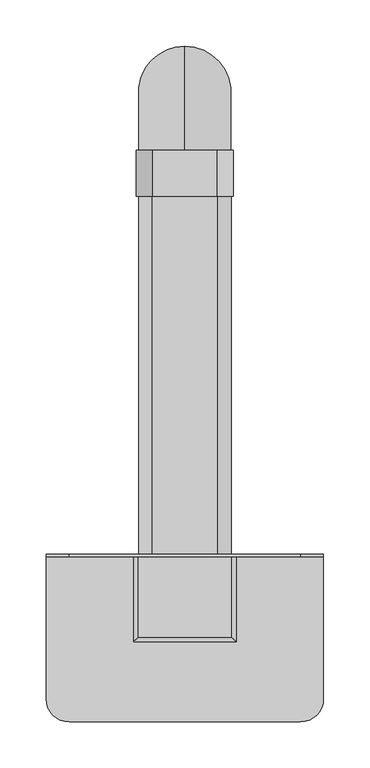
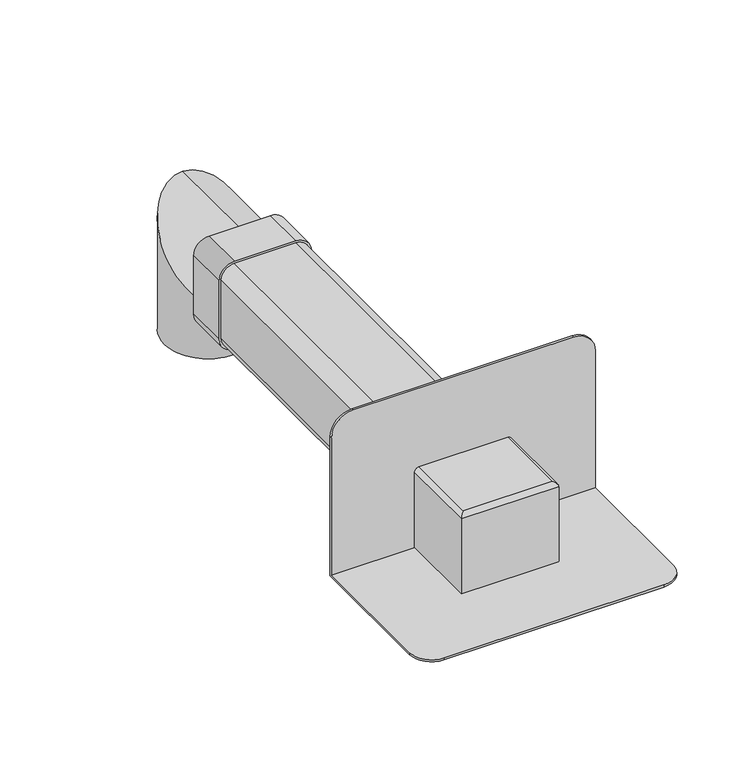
"""IFC4 building model written with IfcOpenShell, lengths in millimetres: flow terminal geometry, BIMLIB_Воронка_Парапетная_Fachmann_VC-PVC : 100х100х450."""

import ifcopenshell
import ifcopenshell.guid

model = None  # the IFC model being written
_history = None  # IfcOwnerHistory: only IFC2X3 demands one
_inside = {}  # id of a spatial element -> (the spatial element, [elements in it])
_under = {}  # id of a project, library or spatial element -> (it, [spatial elements below it])
_declared = {}  # id of a project -> (the project, [libraries it declares])
_typed = {}  # id of a type object -> (the type object, [elements of that type])
_made_of = {}  # id of a material, layer set ... -> (it, [elements and type objects made of it])


def new_model(schema):
    """Start an empty IFC model of exactly this schema.

    Asked for "IFC4X3", IfcOpenShell would pick the latest addendum, in which some entities
    have other attributes; the version numbers below select the first issue.
    IFC2X3 requires an IfcOwnerHistory on every rooted entity: one is made here for all.
    """
    global model, _history
    if schema == "IFC4X3":
        model = ifcopenshell.file(schema_version=(4, 3, 0, 0))
    else:
        model = ifcopenshell.file(schema=schema)
    _inside.clear()
    _under.clear()
    _declared.clear()
    _typed.clear()
    _made_of.clear()
    _history = None
    if model.schema == "IFC2X3":
        org = make("IfcOrganization", Name="unknown")
        user = make(
            "IfcPersonAndOrganization",
            ThePerson=make("IfcPerson", FamilyName="unknown"),
            TheOrganization=org,
        )
        app = make(
            "IfcApplication",
            ApplicationDeveloper=org,
            Version="unknown",
            ApplicationFullName="unknown",
            ApplicationIdentifier="unknown",
        )
        _history = make(
            "IfcOwnerHistory",
            OwningUser=user,
            OwningApplication=app,
            ChangeAction="ADDED",
            CreationDate=0,
        )
    return model


def make(cls, **values):
    """One entity of the class cls with the attributes given. An attribute that is None is left unset."""
    return model.create_entity(
        cls, **{name: value for name, value in values.items() if value is not None}
    )


def rooted(cls, **values):
    """An entity with a GlobalId (a new one), such as an element, a storey or a relation."""
    return make(cls, GlobalId=ifcopenshell.guid.new(), OwnerHistory=_history, **values)


def si_unit(unit_type, name, prefix=None):
    """IfcSIUnit, for example si_unit("LENGTHUNIT", "METRE", prefix="MILLI")."""
    return make("IfcSIUnit", UnitType=unit_type, Prefix=prefix, Name=name)


def assignment(units):
    """IfcUnitAssignment: the units of a project."""
    return None if units is None else make("IfcUnitAssignment", Units=units)


def point(xyz):
    """IfcCartesianPoint."""
    return None if xyz is None else make("IfcCartesianPoint", Coordinates=xyz)


def direction(xyz):
    """IfcDirection."""
    return None if xyz is None else make("IfcDirection", DirectionRatios=xyz)


def frame(location, z_axis=None, x_axis=None):
    """IfcAxis2Placement3D, a coordinate frame: its origin and axes. An axis left out is left unset."""
    return make(
        "IfcAxis2Placement3D",
        Location=point(location),
        Axis=direction(z_axis),
        RefDirection=direction(x_axis),
    )


def frame_2d(location, x_axis=None):
    """IfcAxis2Placement2D, a coordinate frame in the plane: its origin and x axis."""
    return make(
        "IfcAxis2Placement2D", Location=point(location), RefDirection=direction(x_axis)
    )


def origin():
    """The frame at (0, 0, 0) with its axes left unset."""
    return frame((0.0, 0.0, 0.0))


def place(relative_to, where):
    """IfcLocalPlacement: puts the frame where relative to a parent placement (None: the world)."""
    return make(
        "IfcLocalPlacement", PlacementRelTo=relative_to, RelativePlacement=where
    )


def context(
    kind, dimensions, precision=None, world=None, true_north=None, identifier=None
):
    """IfcGeometricRepresentationContext, for example the 3D "Model" context."""
    return make(
        "IfcGeometricRepresentationContext",
        ContextIdentifier=identifier,
        ContextType=kind,
        CoordinateSpaceDimension=dimensions,
        Precision=precision,
        WorldCoordinateSystem=world,
        TrueNorth=true_north,
    )


def project(units=None, contexts=None):
    """IfcProject with its units and contexts."""
    return rooted(
        "IfcProject",
        Name="project",
        RepresentationContexts=contexts,
        UnitsInContext=assignment(units),
    )


def spatial(cls, under=None, at=None, **own):
    """A site, building, storey or space (cls), placed at a placement, below another one or the project."""
    s = rooted(cls, ObjectPlacement=at, **own)
    if under is not None:
        _under.setdefault(under.id(), (under, []))[1].append(s)
    return s


def polyline(points):
    """IfcPolyline through the points."""
    return make("IfcPolyline", Points=[point(p) for p in points])


def circle_curve(where, radius):
    """IfcCircle in the frame where."""
    return make("IfcCircle", Position=where, Radius=radius)


def ellipse_curve(where, semi_axis1, semi_axis2):
    """IfcEllipse in the frame where."""
    return make(
        "IfcEllipse", Position=where, SemiAxis1=semi_axis1, SemiAxis2=semi_axis2
    )


def trimmed(basis, trim1, trim2, sense, master):
    """IfcTrimmedCurve: the piece of a basis curve between two trims."""
    return make(
        "IfcTrimmedCurve",
        BasisCurve=basis,
        Trim1=trim1,
        Trim2=trim2,
        SenseAgreement=sense,
        MasterRepresentation=master,
    )


def segment(curve, same_sense, transition):
    """IfcCompositeCurveSegment."""
    return make(
        "IfcCompositeCurveSegment",
        Transition=transition,
        SameSense=same_sense,
        ParentCurve=curve,
    )


def composite_curve(segments, self_intersect=None):
    """IfcCompositeCurve: segments joined end to end."""
    return make("IfcCompositeCurve", Segments=segments, SelfIntersect=self_intersect)


def outline(outer, holes=None, kind="AREA"):
    """IfcArbitraryClosedProfileDef: a profile drawn as a closed curve; with holes, ...WithVoids."""
    if holes is None:
        return make("IfcArbitraryClosedProfileDef", ProfileType=kind, OuterCurve=outer)
    return make(
        "IfcArbitraryProfileDefWithVoids",
        ProfileType=kind,
        OuterCurve=outer,
        InnerCurves=holes,
    )


def extrude(swept, where, along, depth):
    """IfcExtrudedAreaSolid: the profile swept, set in the frame where, extruded along a direction by depth."""
    return make(
        "IfcExtrudedAreaSolid",
        SweptArea=swept,
        Position=where,
        ExtrudedDirection=direction(along),
        Depth=depth,
    )


def shape(context_of_items, identifier, shape_type, items):
    """IfcShapeRepresentation: the items that make up one representation, for example the "Body"."""
    return make(
        "IfcShapeRepresentation",
        ContextOfItems=context_of_items,
        RepresentationIdentifier=identifier,
        RepresentationType=shape_type,
        Items=items,
    )


def source(mapping_origin, context_of_items, identifier, shape_type, items):
    """IfcRepresentationMap: a shape defined once, which mapped items show again and again."""
    return make(
        "IfcRepresentationMap",
        MappingOrigin=mapping_origin,
        MappedRepresentation=shape(context_of_items, identifier, shape_type, items),
    )


def transform(
    local_origin,
    x_axis=None,
    y_axis=None,
    z_axis=None,
    scale=None,
    scale2=None,
    scale3=None,
    uniform=True,
):
    """IfcCartesianTransformationOperator3D, or its non-uniform kind. x_axis, y_axis, z_axis: its Axis1, 2, 3."""
    if uniform:
        return make(
            "IfcCartesianTransformationOperator3D",
            Axis1=direction(x_axis),
            Axis2=direction(y_axis),
            LocalOrigin=point(local_origin),
            Scale=scale,
            Axis3=direction(z_axis),
        )
    return make(
        "IfcCartesianTransformationOperator3DnonUniform",
        Axis1=direction(x_axis),
        Axis2=direction(y_axis),
        LocalOrigin=point(local_origin),
        Scale=scale,
        Axis3=direction(z_axis),
        Scale2=scale2,
        Scale3=scale3,
    )


def mapped(mapping_source, mapping_target):
    """IfcMappedItem: shows the shape of a source again, moved by a transform."""
    return make(
        "IfcMappedItem", MappingSource=mapping_source, MappingTarget=mapping_target
    )


def made_of(thing, what):
    """Note that an element or type object is made of a material, layer set ...; save() writes the relation."""
    if what is not None:
        _made_of.setdefault(what.id(), (what, []))[1].append(thing)
    return thing


def element(
    cls,
    number,
    at=None,
    inside=None,
    cuts=None,
    type_object=None,
    material=None,
    context=None,
    identifier="Body",
    shape_type=None,
    held_by="IfcProductDefinitionShape",
    body=None,
    shapes=None,
    **own,
):
    """One element of the class cls, such as IfcWall. Its Tag is "e" and its number.

    at: its placement. inside: the storey or other place that contains it. cuts: it is an
    opening in that element (IfcRelVoidsElement). A single representation is given by context,
    identifier, shape_type and body (its items); several are given by shapes. held_by: the class
    of the entity that holds the representations. save() writes the other relations.
    """
    e = rooted(cls, Tag="e%d" % number, ObjectPlacement=at, **own)
    if body is not None:
        shapes = [shape(context, identifier, shape_type, body)]
    if shapes is not None:
        e.Representation = make(held_by, Representations=shapes)
    if inside is not None:
        _inside.setdefault(inside.id(), (inside, []))[1].append(e)
    if cuts is not None:
        rooted(
            "IfcRelVoidsElement", RelatingBuildingElement=cuts, RelatedOpeningElement=e
        )
    if type_object is not None:
        _typed.setdefault(type_object.id(), (type_object, []))[1].append(e)
    return made_of(e, material)


def aggregate(whole, parts):
    """IfcRelAggregates: a whole, such as a stair, and the parts it consists of."""
    return rooted("IfcRelAggregates", RelatingObject=whole, RelatedObjects=parts)


def save(model, path):
    """Write the relations noted so far, then the file.

    IfcRelAggregates (storeys below a building ...), IfcRelContainedInSpatialStructure (elements
    in a storey), IfcRelDefinesByType, IfcRelAssociatesMaterial and IfcRelDeclares: one each for
    every whole, place, type object, material and project.
    """
    for whole, parts in _under.values():
        aggregate(whole, parts)
    for where, things in _inside.values():
        rooted(
            "IfcRelContainedInSpatialStructure",
            RelatedElements=things,
            RelatingStructure=where,
        )
    for kind, things in _typed.values():
        rooted("IfcRelDefinesByType", RelatedObjects=things, RelatingType=kind)
    for what, things in _made_of.values():
        rooted("IfcRelAssociatesMaterial", RelatedObjects=things, RelatingMaterial=what)
    for by, libraries in _declared.values():
        rooted("IfcRelDeclares", RelatingContext=by, RelatedDefinitions=libraries)
    model.write(path)


def plane_surface(at):
    """IfcPlane: the flat surface through the origin of the frame at, square to its z axis."""
    return make("IfcPlane", Position=at)


def cylinder_surface(at, radius):
    """IfcCylindricalSurface: all points at the distance radius from the z axis of the frame at."""
    return make("IfcCylindricalSurface", Position=at, Radius=radius)


def revolved_surface(curve, axis_point, axis_direction):
    """IfcSurfaceOfRevolution: the curve turned about the line through axis_point along axis_direction."""
    return make(
        "IfcSurfaceOfRevolution",
        SweptCurve=make("IfcArbitraryOpenProfileDef", ProfileType="CURVE", Curve=curve),
        AxisPosition=make("IfcAxis1Placement", Location=point(axis_point), Axis=direction(axis_direction)),
    )


def advanced_brep(points, edges, surfaces, faces):
    """IfcAdvancedBrep: a solid bounded by faces that lie on surfaces and meet in shared edges.

    An edge is (start, end): straight between two places in points (the first is 0);
    or (start, end, curve); or (start, end, curve, False) where it runs against its curve.
    A face is (place in surfaces, loops), or (place, loops, False) where it looks against
    its surface's normal. A loop lists edges by number (the first is 1), with a minus sign
    where the edge is run from its end to its start. The first loop is the outer one.
    """
    corners = [point(p) for p in points]
    vertices = [make("IfcVertexPoint", VertexGeometry=c) for c in corners]
    made = []
    for start, end, *more in edges:
        made.append(
            make(
                "IfcEdgeCurve",
                EdgeStart=vertices[start],
                EdgeEnd=vertices[end],
                EdgeGeometry=more[0] if more else make("IfcPolyline", Points=[corners[start], corners[end]]),
                SameSense=more[1] if len(more) > 1 else True,
            )
        )
    hull = []
    for where, loops, *sense in faces:
        bounds = []
        for j, loop in enumerate(loops):
            ring = [make("IfcOrientedEdge", EdgeElement=made[abs(k) - 1], Orientation=k > 0) for k in loop]
            bounds.append(
                make(
                    "IfcFaceOuterBound" if j == 0 else "IfcFaceBound",
                    Bound=make("IfcEdgeLoop", EdgeList=ring),
                    Orientation=True,
                )
            )
        hull.append(make("IfcAdvancedFace", Bounds=bounds, FaceSurface=surfaces[where], SameSense=sense[0] if sense else True))
    return make("IfcAdvancedBrep", Outer=make("IfcClosedShell", CfsFaces=hull))


def flow_terminal_a2a1d550(model_context):
    return source(origin(), model_context, "Body", "SolidModel", [
        advanced_brep(
        [(50.4, -502.5, 97.5), (-50.4, -502.5, 97.5), (-50.4, -589.4, 97.5), (50.4, -589.4, 97.5), (55.4, -502.5, 2.5), (55.4, -594.4, 2.5), (-55.4, -594.4, 2.5), (-55.4, -502.5, 2.5), (-55.4, -502.5, 92.5), (55.4, -502.5, 92.5), (-55.4, -594.4, 92.5), (55.4, -594.4, 92.5)],
        [
            (0, 1),
            (1, 2),
            (2, 3),
            (3, 0),
            (4, 5),
            (5, 6),
            (6, 7),
            (7, 4),
            (7, 8),
            (8, 1, circle_curve(frame((-50.4, -502.5, 92.5), z_axis=(0.0, 1.0, 0.0), x_axis=(1.0, 0.0, 0.0)), 5.0)),
            (0, 9, circle_curve(frame((50.4, -502.5, 92.5), z_axis=(0.0, 1.0, 0.0), x_axis=(-1.0, 0.0, 0.0)), 5.0)),
            (9, 4),
            (6, 10),
            (10, 8),
            (5, 11),
            (11, 10),
            (9, 11),
            (10, 2, ellipse_curve(frame((-50.4, -589.4, 92.5), z_axis=(-0.7071067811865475, 0.7071067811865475, 0.0), x_axis=(-0.7071067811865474, -0.7071067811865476, 0.0)), 7.0710678, 5.0)),
            (11, 3, ellipse_curve(frame((50.4, -589.4, 92.5), z_axis=(-0.7071067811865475, -0.7071067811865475, 0.0), x_axis=(0.7071067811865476, -0.7071067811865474, 0.0)), 7.0710678, 5.0)),
        ],
        [
            plane_surface(frame((-55.4, -502.5, 97.5), z_axis=(0.0, 0.0, 1.0), x_axis=(-1.0, 0.0, 0.0))),
            plane_surface(frame((-55.4, -502.5, 2.5), z_axis=(0.0, 0.0, -1.0), x_axis=(1.0, 0.0, 0.0))),
            plane_surface(frame((55.4, -502.5, 97.5), z_axis=(0.0, 1.0, 0.0), x_axis=(0.0, 0.0, -1.0))),
            plane_surface(frame((-55.4, -502.5, 97.5), z_axis=(-1.0, 0.0, 0.0), x_axis=(0.0, 0.0, -1.0))),
            plane_surface(frame((-55.4, -594.4, 97.5), z_axis=(0.0, -1.0, 0.0), x_axis=(0.0, 0.0, -1.0))),
            plane_surface(frame((55.4, -594.4, 97.5), z_axis=(1.0, 0.0, 0.0), x_axis=(0.0, 0.0, -1.0))),
            cylinder_surface(frame((-50.4, -502.5, 92.5), z_axis=(0.0, -1.0, 0.0), x_axis=(1.0, 0.0, 0.0)), 5.0),
            cylinder_surface(frame((-55.4, -589.4, 92.5), z_axis=(1.0, 0.0, 0.0), x_axis=(0.0, 1.0, 0.0)), 5.0),
            cylinder_surface(frame((50.4, -594.4, 92.5), z_axis=(0.0, 1.0, 0.0), x_axis=(-1.0, 0.0, 0.0)), 5.0),
        ],
        [
            (0, [[1, 2, 3, 4]]),
            (1, [[5, 6, 7, 8]]),
            (2, [[-8, 9, 10, -1, 11, 12]]),
            (3, [[-7, 13, 14, -9]]),
            (4, [[-6, 15, 16, -13]]),
            (5, [[-5, -12, 17, -15]]),
            (6, [[18, -2, -10, -14]]),
            (7, [[-18, -16, 19, -3]]),
            (8, [[-19, -17, -11, -4]]),
        ],
    ),
        advanced_brep(
        [(35.0, -112.5, 102.5), (-35.0, -112.5, 102.5), (-52.5, -112.5, 85.0), (-52.5, -112.5, 15.0), (-35.0, -112.5, -2.5), (35.0, -112.5, -2.5), (52.5, -112.5, 15.0), (52.5, -112.5, 85.0), (-50.0, -112.5, 85.0), (-35.0, -112.5, 100.0), (35.0, -112.5, 100.0), (50.0, -112.5, 85.0), (50.0, -112.5, 15.0), (35.0, -112.5, 0.0), (-35.0, -112.5, 0.0), (-50.0, -112.5, 15.0), (35.0, -62.5, 102.5), (52.5, -62.5, 85.0), (52.5, -62.5, 15.0), (35.0, -62.5, -2.5), (-35.0, -62.5, -2.5), (-52.5, -62.5, 15.0), (-52.5, -62.5, 85.0), (-35.0, -62.5, 102.5), (-50.0, -62.5, 15.0), (-35.0, -62.5, 0.0), (0.0, -62.5, 0.0), (35.0, -62.5, 0.0), (50.0, -62.5, 15.0), (50.0, -62.5, 50.0), (50.0, -62.5, 85.0), (35.0, -62.5, 100.0), (0.0, -62.5, 100.0), (-35.0, -62.5, 100.0), (-50.0, -62.5, 85.0), (-50.0, -62.5, 50.0)],
        [
            (0, 1),
            (1, 2, circle_curve(frame((-35.0, -112.5, 85.0), z_axis=(0.0, -1.0, 0.0), x_axis=(0.0, 0.0, 1.0)), 17.5)),
            (2, 3),
            (3, 4, circle_curve(frame((-35.0, -112.5, 15.0), z_axis=(0.0, -1.0, 0.0), x_axis=(0.0, 0.0, 1.0)), 17.5)),
            (4, 5),
            (5, 6, circle_curve(frame((35.0, -112.5, 15.0), z_axis=(0.0, -1.0, 0.0), x_axis=(0.0, 0.0, 1.0)), 17.5)),
            (6, 7),
            (7, 0, circle_curve(frame((35.0, -112.5, 85.0), z_axis=(0.0, -1.0, 0.0), x_axis=(0.0, 0.0, 1.0)), 17.5)),
            (8, 9, circle_curve(frame((-35.0, -112.5, 85.0), z_axis=(0.0, 1.0, 0.0), x_axis=(0.0, 0.0, 1.0)), 15.0)),
            (9, 10),
            (10, 11, circle_curve(frame((35.0, -112.5, 85.0), z_axis=(0.0, 1.0, 0.0), x_axis=(0.0, 0.0, 1.0)), 15.0)),
            (11, 12),
            (12, 13, circle_curve(frame((35.0, -112.5, 15.0), z_axis=(0.0, 1.0, 0.0), x_axis=(0.0, 0.0, 1.0)), 15.0)),
            (13, 14),
            (14, 15, circle_curve(frame((-35.0, -112.5, 15.0), z_axis=(0.0, 1.0, 0.0), x_axis=(0.0, 0.0, 1.0)), 15.0)),
            (15, 8),
            (16, 17, circle_curve(frame((35.0, -62.5, 85.0), z_axis=(0.0, 1.0, 0.0), x_axis=(0.0, 0.0, 1.0)), 17.5)),
            (17, 18),
            (18, 19, circle_curve(frame((35.0, -62.5, 15.0), z_axis=(0.0, 1.0, 0.0), x_axis=(0.0, 0.0, 1.0)), 17.5)),
            (19, 20),
            (20, 21, circle_curve(frame((-35.0, -62.5, 15.0), z_axis=(0.0, 1.0, 0.0), x_axis=(0.0, 0.0, 1.0)), 17.5)),
            (21, 22),
            (22, 23, circle_curve(frame((-35.0, -62.5, 85.0), z_axis=(0.0, 1.0, 0.0), x_axis=(0.0, 0.0, 1.0)), 17.5)),
            (23, 16),
            (24, 25, circle_curve(frame((-35.0, -62.5, 15.0), z_axis=(0.0, -1.0, 0.0), x_axis=(0.0, 0.0, 1.0)), 15.0)),
            (25, 26),
            (26, 27),
            (27, 28, circle_curve(frame((35.0, -62.5, 15.0), z_axis=(0.0, -1.0, 0.0), x_axis=(0.0, 0.0, 1.0)), 15.0)),
            (28, 29),
            (29, 30),
            (30, 31, circle_curve(frame((35.0, -62.5, 85.0), z_axis=(0.0, -1.0, 0.0), x_axis=(0.0, 0.0, 1.0)), 15.0)),
            (31, 32),
            (32, 33),
            (33, 34, circle_curve(frame((-35.0, -62.5, 85.0), z_axis=(0.0, -1.0, 0.0), x_axis=(0.0, 0.0, 1.0)), 15.0)),
            (34, 35),
            (35, 24),
            (15, 24),
            (34, 8),
            (14, 25),
            (13, 27),
            (12, 28),
            (11, 30),
            (10, 31),
            (9, 33),
            (7, 17),
            (16, 0),
            (6, 18),
            (5, 19),
            (4, 20),
            (3, 21),
            (2, 22),
            (1, 23),
        ],
        [
            plane_surface(frame((-50.0, -112.5, 15.0), z_axis=(0.0, -1.0, 0.0), x_axis=(0.0, 0.0, 1.0))),
            plane_surface(frame((-50.0, -62.5, 15.0), z_axis=(0.0, 1.0, 0.0), x_axis=(0.0, 0.0, -1.0))),
            plane_surface(frame((-50.0, -62.5, 85.0), z_axis=(1.0, 0.0, 0.0), x_axis=(0.0, -1.0, 0.0))),
            revolved_surface(polyline([(-35.0, -112.5, 30.0), (-35.0, -62.5, 30.0)]), (-35.0, -112.5, 15.0), (0.0, -1.0, 0.0)),
            plane_surface(frame((-35.0, -62.5, 0.0), z_axis=(0.0, 0.0, 1.0), x_axis=(0.0, -1.0, 0.0))),
            revolved_surface(polyline([(35.0, -112.5, 30.0), (35.0, -62.5, 30.0)]), (35.0, -112.5, 15.0), (0.0, -1.0, 0.0)),
            plane_surface(frame((50.0, -62.5, 15.0), z_axis=(-1.0, 0.0, 0.0), x_axis=(0.0, -1.0, 0.0))),
            revolved_surface(polyline([(35.0, -112.5, 100.0), (35.0, -62.5, 100.0)]), (35.0, -112.5, 85.0), (0.0, -1.0, 0.0)),
            plane_surface(frame((35.0, -62.5, 100.0), z_axis=(0.0, 0.0, -1.0), x_axis=(0.0, -1.0, 0.0))),
            revolved_surface(polyline([(-35.0, -112.5, 100.0), (-35.0, -62.5, 100.0)]), (-35.0, -112.5, 85.0), (0.0, -1.0, 0.0)),
            cylinder_surface(frame((35.0, -62.5, 85.0), z_axis=(0.0, 1.0, 0.0), x_axis=(0.0, 0.0, 1.0)), 17.5),
            plane_surface(frame((52.5, -62.5, 85.0), z_axis=(1.0, 0.0, 0.0), x_axis=(0.0, -1.0, 0.0))),
            cylinder_surface(frame((35.0, -62.5, 15.0), z_axis=(0.0, 1.0, 0.0), x_axis=(0.0, 0.0, 1.0)), 17.5),
            plane_surface(frame((35.0, -62.5, -2.5), z_axis=(0.0, 0.0, -1.0), x_axis=(0.0, -1.0, 0.0))),
            cylinder_surface(frame((-35.0, -62.5, 15.0), z_axis=(0.0, 1.0, 0.0), x_axis=(0.0, 0.0, 1.0)), 17.5),
            plane_surface(frame((-52.5, -62.5, 15.0), z_axis=(-1.0, 0.0, 0.0), x_axis=(0.0, -1.0, 0.0))),
            cylinder_surface(frame((-35.0, -62.5, 85.0), z_axis=(0.0, 1.0, 0.0), x_axis=(0.0, 0.0, 1.0)), 17.5),
            plane_surface(frame((-35.0, -62.5, 102.5), z_axis=(0.0, 0.0, 1.0), x_axis=(0.0, -1.0, 0.0))),
        ],
        [
            (0, [[1, 2, 3, 4, 5, 6, 7, 8], [9, 10, 11, 12, 13, 14, 15, 16]]),
            (1, [[17, 18, 19, 20, 21, 22, 23, 24], [25, 26, 27, 28, 29, 30, 31, 32, 33, 34, 35, 36]]),
            (2, [[-16, 37, -36, -35, 38]]),
            (3, [[-15, 39, -25, -37]]),
            (4, [[-14, 40, -27, -26, -39]]),
            (5, [[-13, 41, -28, -40]]),
            (6, [[-12, 42, -30, -29, -41]]),
            (7, [[-11, 43, -31, -42]]),
            (8, [[-10, 44, -33, -32, -43]]),
            (9, [[-9, -38, -34, -44]]),
            (10, [[-8, 45, -17, 46]]),
            (11, [[-7, 47, -18, -45]]),
            (12, [[-6, 48, -19, -47]]),
            (13, [[-5, 49, -20, -48]]),
            (14, [[-4, 50, -21, -49]]),
            (15, [[-3, 51, -22, -50]]),
            (16, [[-2, 52, -23, -51]]),
            (17, [[-1, -46, -24, -52]]),
        ],
    ),
        advanced_brep(
        [(0.0, -62.5, 100.0), (-50.0, -62.5, 50.0), (0.0, -62.5, 0.0), (50.0, -62.5, 50.0), (0.0, -50.0, 0.0), (0.0, 50.0, 100.0), (0.0, -50.0, -60.0), (0.0, 50.0, -60.0)],
        [
            (0, 1, circle_curve(frame((0.0, -62.5, 50.0), z_axis=(0.0, -1.0, 0.0), x_axis=(0.0, 0.0, 1.0)), 50.0)),
            (1, 2, circle_curve(frame((0.0, -62.5, 50.0), z_axis=(0.0, -1.0, 0.0), x_axis=(0.0, 0.0, 1.0)), 50.0)),
            (2, 3, circle_curve(frame((0.0, -62.5, 50.0), z_axis=(0.0, -1.0, 0.0), x_axis=(0.0, 0.0, 1.0)), 50.0)),
            (3, 0, circle_curve(frame((0.0, -62.5, 50.0), z_axis=(0.0, -1.0, 0.0), x_axis=(0.0, 0.0, 1.0)), 50.0)),
            (2, 4),
            (4, 5, ellipse_curve(frame((0.0, 0.0, 50.0), z_axis=(0.0, -0.7071067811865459, 0.7071067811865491), x_axis=(0.0, -0.7071067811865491, -0.7071067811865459)), 70.7106781, 50.0)),
            (5, 0),
            (5, 4, ellipse_curve(frame((0.0, 0.0, 50.0), z_axis=(0.0, -0.7071067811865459, 0.7071067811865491), x_axis=(0.0, -0.7071067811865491, -0.7071067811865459)), 70.7106781, 50.0)),
            (6, 7, circle_curve(frame((0.0, 0.0, -60.0), z_axis=(0.0, 0.0, -1.0), x_axis=(0.0, 1.0, 0.0)), 50.0)),
            (7, 6, circle_curve(frame((0.0, 0.0, -60.0), z_axis=(0.0, 0.0, -1.0), x_axis=(0.0, 1.0, 0.0)), 50.0)),
            (4, 6),
            (7, 5),
        ],
        [
            plane_surface(frame((0.0, -62.5, 50.0), z_axis=(0.0, -1.0, 0.0), x_axis=(1.0, 0.0, 0.0))),
            cylinder_surface(frame((0.0, -62.5, 50.0), z_axis=(0.0, -1.0, 0.0), x_axis=(0.0, 0.0, 1.0)), 50.0),
            plane_surface(frame((0.0, 0.0, -60.0), z_axis=(0.0, 0.0, -1.0), x_axis=(1.0, 0.0, 0.0))),
            cylinder_surface(frame((0.0, 0.0, 50.0), z_axis=(0.0, 0.0, 1.0), x_axis=(0.0, 1.0, 0.0)), 50.0),
        ],
        [
            (0, [[1, 2, 3, 4]]),
            (1, [[5, 6, 7, -4, -3]]),
            (1, [[-5, -2, -1, -7, 8]]),
            (2, [[9, 10]]),
            (3, [[-6, 11, -10, 12]]),
            (3, [[-8, -12, -9, -11]]),
        ],
    ),
        extrude(outline(composite_curve([segment(polyline([(100.0, 35.0), (100.0, -35.0)]), True, "CONTINUOUS"), segment(trimmed(circle_curve(frame_2d((85.0, -35.0)), 15.0), [point((100.0, -35.0))], [point((85.0, -50.0))], False, "CARTESIAN"), True, "CONTINUOUS"), segment(polyline([(85.0, -50.0), (15.0, -50.0)]), True, "CONTINUOUS"), segment(trimmed(circle_curve(frame_2d((15.0, -35.0)), 15.0), [point((15.0, -50.0))], [point((0.0, -35.0))], False, "CARTESIAN"), True, "CONTINUOUS"), segment(polyline([(0.0, -35.0), (0.0, 35.0)]), True, "CONTINUOUS"), segment(trimmed(circle_curve(frame_2d((15.0, 35.0)), 15.0), [point((0.0, 35.0))], [point((15.0, 50.0))], False, "CARTESIAN"), True, "CONTINUOUS"), segment(polyline([(15.0, 50.0), (85.0, 50.0)]), True, "CONTINUOUS"), segment(trimmed(circle_curve(frame_2d((85.0, 35.0)), 15.0), [point((85.0, 50.0))], [point((100.0, 35.0))], False, "CARTESIAN"), True, "CONTINUOUS")], self_intersect=False)), frame((0.0, -500.0, 0.0), z_axis=(0.0, 1.0, 0.0), x_axis=(0.0, 0.0, 1.0)), (0.0, 0.0, 1.0), 400.0),
        advanced_brep(
        [(-150.0, -656.0, 2.5), (-125.0, -681.0, 2.5), (125.0, -681.0, 2.5), (150.0, -656.0, 2.5), (150.0, -502.5, 2.5), (-150.0, -502.5, 2.5), (150.0, -500.0, 0.0), (150.0, -656.0, 0.0), (125.0, -681.0, 0.0), (-125.0, -681.0, 0.0), (-150.0, -656.0, 0.0), (-150.0, -500.0, 0.0), (-150.0, -500.0, 167.0), (-125.0, -500.0, 192.0), (125.0, -500.0, 192.0), (150.0, -500.0, 167.0), (-150.0, -502.5, 167.0), (150.0, -502.5, 167.0), (125.0, -502.5, 192.0), (-125.0, -502.5, 192.0)],
        [
            (0, 1, circle_curve(frame((-125.0, -656.0, 2.5), z_axis=(0.0, 0.0, 1.0), x_axis=(1.0, 0.0, 0.0)), 25.0)),
            (1, 2),
            (2, 3, circle_curve(frame((125.0, -656.0, 2.5), z_axis=(0.0, 0.0, 1.0), x_axis=(1.0, 0.0, 0.0)), 25.0)),
            (3, 4),
            (4, 5),
            (5, 0),
            (6, 7),
            (7, 8, circle_curve(frame((125.0, -656.0, 0.0), z_axis=(0.0, 0.0, -1.0), x_axis=(1.0, 0.0, 0.0)), 25.0)),
            (8, 9),
            (9, 10, circle_curve(frame((-125.0, -656.0, 0.0), z_axis=(0.0, 0.0, -1.0), x_axis=(1.0, 0.0, 0.0)), 25.0)),
            (10, 11),
            (11, 6),
            (11, 12),
            (12, 13, circle_curve(frame((-125.0, -500.0, 167.0), z_axis=(0.0, 1.0, 0.0), x_axis=(1.0, 0.0, 0.0)), 25.0)),
            (13, 14),
            (14, 15, circle_curve(frame((125.0, -500.0, 167.0), z_axis=(0.0, 1.0, 0.0), x_axis=(1.0, 0.0, 0.0)), 25.0)),
            (15, 6),
            (10, 0),
            (5, 16),
            (16, 12),
            (9, 1),
            (8, 2),
            (7, 3),
            (15, 17),
            (17, 4),
            (18, 19),
            (19, 16, circle_curve(frame((-125.0, -502.5, 167.0), z_axis=(0.0, -1.0, 0.0), x_axis=(1.0, 0.0, 0.0)), 25.0)),
            (17, 18, circle_curve(frame((125.0, -502.5, 167.0), z_axis=(0.0, -1.0, 0.0), x_axis=(1.0, 0.0, 0.0)), 25.0)),
            (18, 14),
            (13, 19),
        ],
        [
            plane_surface(frame((-150.0, -500.0, 2.5), z_axis=(0.0, 0.0, 1.0), x_axis=(-1.0, 0.0, 0.0))),
            plane_surface(frame((-150.0, -500.0, 0.0), z_axis=(0.0, 0.0, -1.0), x_axis=(1.0, 0.0, 0.0))),
            plane_surface(frame((150.0, -500.0, 2.5), z_axis=(0.0, 1.0, 0.0), x_axis=(0.0, 0.0, -1.0))),
            plane_surface(frame((-150.0, -500.0, 2.5), z_axis=(-1.0, 0.0, 0.0), x_axis=(0.0, 0.0, -1.0))),
            cylinder_surface(frame((-125.0, -656.0, 0.0), z_axis=(0.0, 0.0, 1.0), x_axis=(1.0, 0.0, 0.0)), 25.0),
            plane_surface(frame((-125.0, -681.0, 2.5), z_axis=(0.0, -1.0, 0.0), x_axis=(0.0, 0.0, -1.0))),
            cylinder_surface(frame((125.0, -656.0, 0.0), z_axis=(0.0, 0.0, 1.0), x_axis=(1.0, 0.0, 0.0)), 25.0),
            plane_surface(frame((150.0, -656.0, 2.5), z_axis=(1.0, 0.0, 0.0), x_axis=(0.0, 0.0, -1.0))),
            plane_surface(frame((-125.0, -502.5, 192.0), z_axis=(0.0, -1.0, 0.0), x_axis=(-1.0, 0.0, 0.0))),
            plane_surface(frame((125.0, -502.5, 192.0), z_axis=(0.0, 0.0, 1.0), x_axis=(0.0, 1.0, 0.0))),
            cylinder_surface(frame((-125.0, -500.0, 167.0), z_axis=(0.0, -1.0, 0.0), x_axis=(1.0, 0.0, 0.0)), 25.0),
            cylinder_surface(frame((125.0, -500.0, 167.0), z_axis=(0.0, -1.0, 0.0), x_axis=(1.0, 0.0, 0.0)), 25.0),
        ],
        [
            (0, [[1, 2, 3, 4, 5, 6]]),
            (1, [[7, 8, 9, 10, 11, 12]]),
            (2, [[-12, 13, 14, 15, 16, 17]]),
            (3, [[-11, 18, -6, 19, 20, -13]]),
            (4, [[-1, -18, -10, 21]]),
            (5, [[-2, -21, -9, 22]]),
            (6, [[-3, -22, -8, 23]]),
            (7, [[-7, -17, 24, 25, -4, -23]]),
            (8, [[26, 27, -19, -5, -25, 28]]),
            (9, [[-26, 29, -15, 30]]),
            (10, [[-27, -30, -14, -20]]),
            (11, [[-28, -24, -16, -29]]),
        ],
    ),
    ])


if __name__ == "__main__":
    model = new_model("IFC4")
    model_context = context("Model", 3, world=origin())
    ifc_project = project(units=[si_unit("LENGTHUNIT", "METRE", prefix="MILLI")], contexts=[model_context])
    site = spatial("IfcSite", under=ifc_project)
    building = spatial("IfcBuilding", under=site)
    placement = place(None, origin())
    flow_terminal_shape = flow_terminal_a2a1d550(model_context)
    element("IfcFlowTerminal", 1, ObjectType="BIMLIB_Воронка_Парапетная_Fachmann_VC-PVC : 100х100х450", at=placement, inside=building, context=model_context, shape_type="MappedRepresentation", body=[
        mapped(flow_terminal_shape, transform((0.0, 0.0, 0.0), x_axis=(1.0, 0.0, 0.0), y_axis=(0.0, 1.0, 0.0), z_axis=(0.0, 0.0, 1.0))),
    ])
    save(model, "model.ifc")
